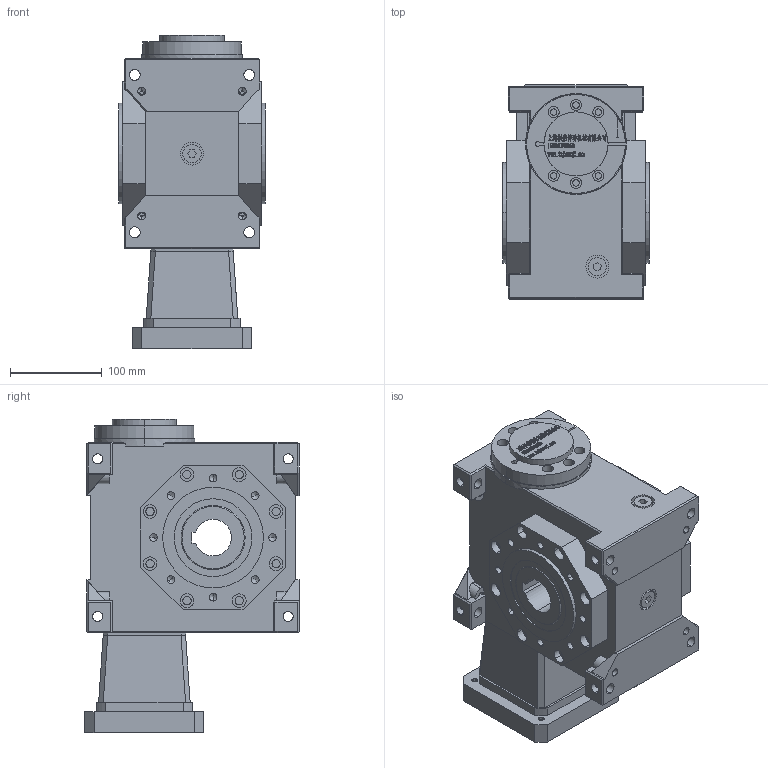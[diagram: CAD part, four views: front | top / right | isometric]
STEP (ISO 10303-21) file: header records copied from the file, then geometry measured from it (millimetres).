
FILE_DESCRIPTION (( 'STEP AP203' ), '1' );
FILE_NAME ('FXLB075-(5~90)-CR-22-110-145-M8.step', '2022-11-06T06:56:32', ( '' ), ( '' ), 'SwSTEP 2.0', 'SolidWorks 2020', '' );
FILE_SCHEMA (( 'CONFIG_CONTROL_DESIGN' ));
Length unit declared in the file: millimetre
Products named in the file (8): ST130-110-145-M8____________.step; 錨璃382^FXLB075-(5~90)-CR-22-110-145-M8; JDLB075-CR____.step; JDLB075-CR________40.step; FXLB075-(5~90)-CR-22-110-145-M8.step; FXLB075-(5~90)-CR-22-110-145-M8; ______BD68-73.3-24-22____.step; JDLB075-ST105________1.step
Assembly tree (7 placements, depth 3):
  FXLB075-(5~90)-CR-22-110-145-M8
    FXLB075-(5~90)-CR-22-110-145-M8.step
      JDLB075-CR____.step
      JDLB075-CR________40.step
      JDLB075-ST105________1.step
      ST130-110-145-M8____________.step
      ______BD68-73.3-24-22____.step
    錨璃382^FXLB075-(5~90)-CR-22-110-145-M8
Bounding box: 160 x 234 x 342.2 mm (x, y, z)
Volume: 6892844.6 mm3; surface area: 599585.1 mm2
Topology: 82 solids, 82 shells, 2690 faces, 7045 edges, 4598 vertices
Faces by surface type: plane 1544, bspline 572, cylinder 456, cone 102, torus 16
Entity records: 113160 total; most frequent: CARTESIAN_POINT 49479, ORIENTED_EDGE 13970, DIRECTION 10987, EDGE_CURVE 6985, LINE 4761, VECTOR 4761, VERTEX_POINT 4598, AXIS2_PLACEMENT_3D 3113
